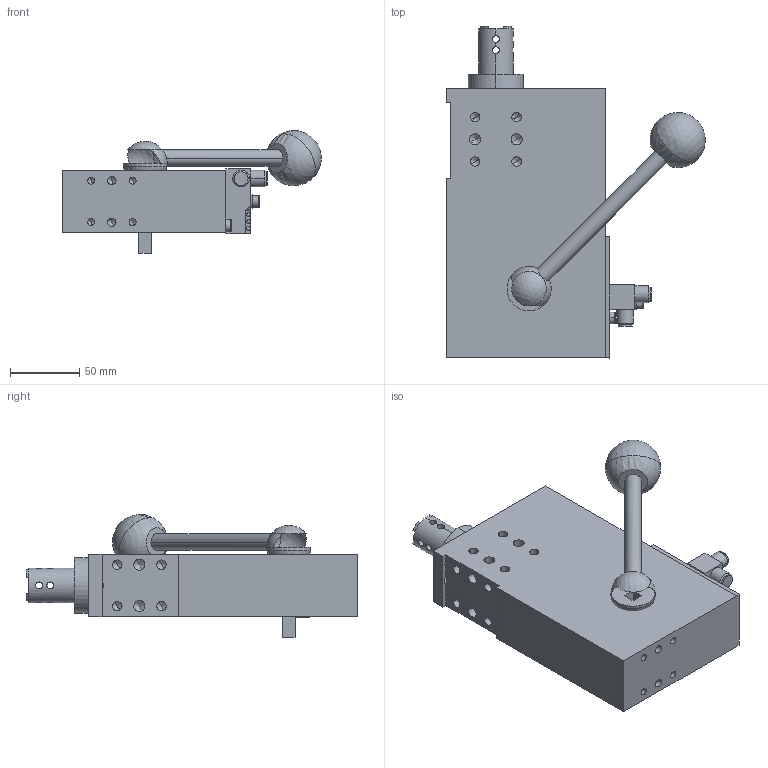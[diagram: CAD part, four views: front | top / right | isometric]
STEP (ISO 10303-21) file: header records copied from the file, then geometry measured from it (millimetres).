
FILE_DESCRIPTION(('CATIA V5 STEP Exchange'),'2;1');
FILE_NAME('G:\Konstruktion\Modelle\UPLOAD\SZV_1_40_B_Z_T12_TUENKERS.stp','2014-09-18T06:55:38+00:00',('none'),('none'),'CATIA Version 5 Release 19 SP 9 (IN-10)','CATIA V5 STEP AP203','none');
FILE_SCHEMA(('CONFIG_CONTROL_DESIGN'));
Length unit declared in the file: millimetre
Products named in the file (1): SZV_1_40_B_Z_T12_TUENKERS
Bounding box: 186.89 x 240 x 88.65 mm (x, y, z)
Volume: 1080207.4 mm3; surface area: 107763.4 mm2
Topology: 2 solids, 2 shells, 257 faces, 766 edges, 464 vertices
Faces by surface type: cylinder 113, cone 68, plane 56, sphere 16, torus 4
Entity records: 8240 total; most frequent: CARTESIAN_POINT 2322, ORIENTED_EDGE 1364, DIRECTION 893, EDGE_CURVE 682, VERTEX_POINT 464, AXIS2_PLACEMENT_3D 453, EDGE_LOOP 316, CIRCLE 306
